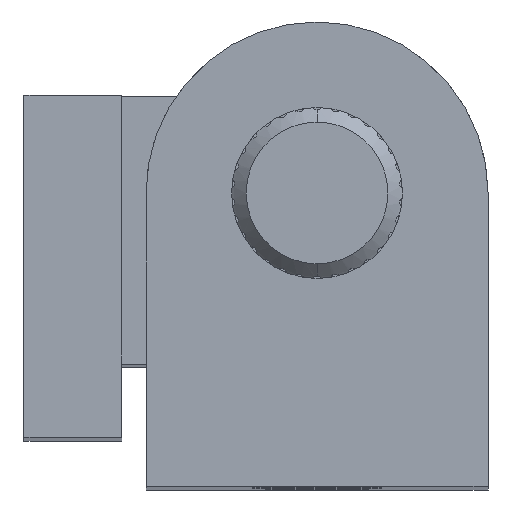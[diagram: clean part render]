
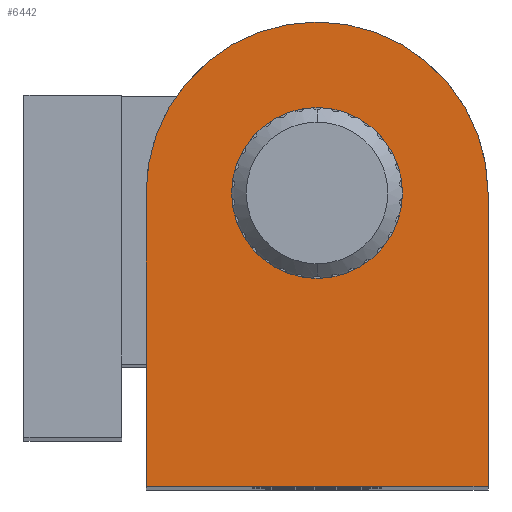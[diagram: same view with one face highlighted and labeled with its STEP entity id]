
A CAD part, top view. The second image highlights one B-rep face of the part: STEP entity #6442.
In plain terms, the highlighted planar face has unit normal (0, 0, 1).
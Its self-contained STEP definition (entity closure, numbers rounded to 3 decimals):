
#46 = ORIENTED_EDGE ( 'NONE', *, *, #2778, .T. ) ;
#109 = DIRECTION ( 'NONE',  ( 0., 0., 1. ) ) ;
#116 = DIRECTION ( 'NONE',  ( 1., 0., 0. ) ) ;
#122 = CARTESIAN_POINT ( 'NONE',  ( 0., 0., 46. ) ) ;
#415 = DIRECTION ( 'NONE',  ( 0., 0., 1. ) ) ;
#494 = EDGE_CURVE ( 'NONE', #1072, #4102, #6712, .T. ) ;
#603 = DIRECTION ( 'NONE',  ( 0., 0., 1. ) ) ;
#691 = CARTESIAN_POINT ( 'NONE',  ( 0., 0., 46. ) ) ;
#710 = EDGE_LOOP ( 'NONE', ( #46, #5965, #4126, #1186 ) ) ;
#775 = AXIS2_PLACEMENT_3D ( 'NONE', #122, #109, #116 ) ;
#873 = ORIENTED_EDGE ( 'NONE', *, *, #4682, .F. ) ;
#876 = EDGE_CURVE ( 'NONE', #4390, #881, #6854, .T. ) ;
#881 = VERTEX_POINT ( 'NONE', #4946 ) ;
#1072 = VERTEX_POINT ( 'NONE', #5416 ) ;
#1186 = ORIENTED_EDGE ( 'NONE', *, *, #494, .T. ) ;
#1505 = FACE_BOUND ( 'NONE', #3661, .T. ) ;
#1544 = CARTESIAN_POINT ( 'NONE',  ( 7., 0., 46. ) ) ;
#1586 = FACE_OUTER_BOUND ( 'NONE', #710, .T. ) ;
#2018 = EDGE_CURVE ( 'NONE', #3020, #6391, #6911, .T. ) ;
#2054 = AXIS2_PLACEMENT_3D ( 'NONE', #2238, #2215, #2223 ) ;
#2127 = DIRECTION ( 'NONE',  ( 1., 0., 0. ) ) ;
#2176 = CARTESIAN_POINT ( 'NONE',  ( 3.5, 0., 46. ) ) ;
#2215 = DIRECTION ( 'NONE',  ( 0., 0., 1. ) ) ;
#2223 = DIRECTION ( 'NONE',  ( 1., 0., 0. ) ) ;
#2238 = CARTESIAN_POINT ( 'NONE',  ( 0., 0., 46. ) ) ;
#2267 = ORIENTED_EDGE ( 'NONE', *, *, #2018, .F. ) ;
#2268 = VECTOR ( 'NONE', #4357, 1000. ) ;
#2284 = LINE ( 'NONE', #5573, #2268 ) ;
#2778 = EDGE_CURVE ( 'NONE', #4102, #4390, #2878, .T. ) ;
#2878 = CIRCLE ( 'NONE', #775, 7. ) ;
#3020 = VERTEX_POINT ( 'NONE', #6797 ) ;
#3230 = PLANE ( 'NONE',  #5195 ) ;
#3661 = EDGE_LOOP ( 'NONE', ( #873, #2267 ) ) ;
#4040 = VECTOR ( 'NONE', #4929, 1000. ) ;
#4102 = VERTEX_POINT ( 'NONE', #1544 ) ;
#4103 = DIRECTION ( 'NONE',  ( 0., 1., 0. ) ) ;
#4106 = CARTESIAN_POINT ( 'NONE',  ( 7., 0., 46. ) ) ;
#4126 = ORIENTED_EDGE ( 'NONE', *, *, #6082, .T. ) ;
#4357 = DIRECTION ( 'NONE',  ( 1., 0., 0. ) ) ;
#4366 = CARTESIAN_POINT ( 'NONE',  ( -7., 0., 46. ) ) ;
#4390 = VERTEX_POINT ( 'NONE', #4366 ) ;
#4682 = EDGE_CURVE ( 'NONE', #6391, #3020, #5589, .T. ) ;
#4804 = CARTESIAN_POINT ( 'NONE',  ( 0., 0., 46. ) ) ;
#4929 = DIRECTION ( 'NONE',  ( 0., -1., 0. ) ) ;
#4937 = CARTESIAN_POINT ( 'NONE',  ( -7., 0., 46. ) ) ;
#4946 = CARTESIAN_POINT ( 'NONE',  ( -7., -12., 46. ) ) ;
#5195 = AXIS2_PLACEMENT_3D ( 'NONE', #691, #415, #2127 ) ;
#5416 = CARTESIAN_POINT ( 'NONE',  ( 7., -12., 46. ) ) ;
#5451 = VECTOR ( 'NONE', #4103, 1000. ) ;
#5573 = CARTESIAN_POINT ( 'NONE',  ( 0., -12., 46. ) ) ;
#5589 = CIRCLE ( 'NONE', #6643, 3.5 ) ;
#5726 = DIRECTION ( 'NONE',  ( 1., 0., 0. ) ) ;
#5965 = ORIENTED_EDGE ( 'NONE', *, *, #876, .T. ) ;
#6082 = EDGE_CURVE ( 'NONE', #881, #1072, #2284, .T. ) ;
#6391 = VERTEX_POINT ( 'NONE', #2176 ) ;
#6442 = ADVANCED_FACE ( 'NONE', ( #1505, #1586 ), #3230, .T. ) ;
#6643 = AXIS2_PLACEMENT_3D ( 'NONE', #4804, #603, #5726 ) ;
#6712 = LINE ( 'NONE', #4106, #5451 ) ;
#6797 = CARTESIAN_POINT ( 'NONE',  ( -3.5, 0., 46. ) ) ;
#6854 = LINE ( 'NONE', #4937, #4040 ) ;
#6911 = CIRCLE ( 'NONE', #2054, 3.5 ) ;
